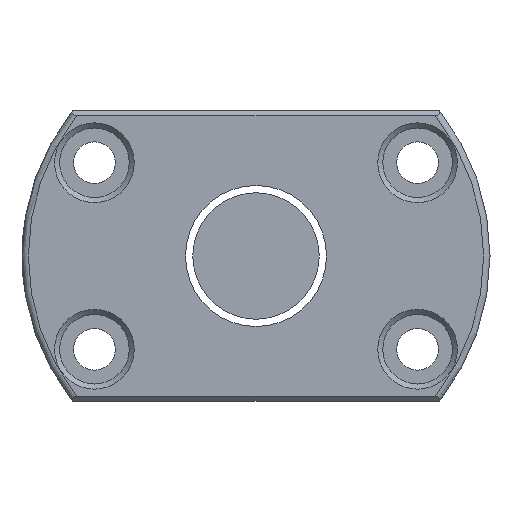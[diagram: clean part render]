
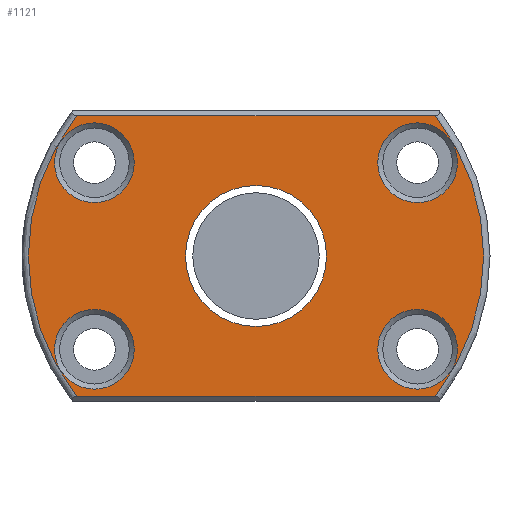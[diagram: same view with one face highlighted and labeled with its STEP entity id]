
A CAD part, left-side view. The second image highlights one B-rep face of the part: STEP entity #1121.
In plain terms, the highlighted planar face has unit normal (-1, 0, 0).
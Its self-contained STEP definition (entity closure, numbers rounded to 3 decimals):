
#4 = EDGE_CURVE ( 'NONE', #134, #134, #276, .T. ) ;
#45 = EDGE_CURVE ( 'NONE', #1109, #3187, #2652, .T. ) ;
#94 = VERTEX_POINT ( 'NONE', #1074 ) ;
#134 = VERTEX_POINT ( 'NONE', #381 ) ;
#143 = CARTESIAN_POINT ( 'NONE',  ( -57., 27.695, 22.2 ) ) ;
#156 = LINE ( 'NONE', #2659, #2923 ) ;
#276 = CIRCLE ( 'NONE', #433, 6.3 ) ;
#352 = EDGE_CURVE ( 'NONE', #616, #616, #3016, .T. ) ;
#360 = CARTESIAN_POINT ( 'NONE',  ( -57., -25.548, 14.75 ) ) ;
#381 = CARTESIAN_POINT ( 'NONE',  ( -57., 25.548, -8.45 ) ) ;
#433 = AXIS2_PLACEMENT_3D ( 'NONE', #2173, #1457, #456 ) ;
#456 = DIRECTION ( 'NONE',  ( 0., 0., 1. ) ) ;
#484 = AXIS2_PLACEMENT_3D ( 'NONE', #2717, #2699, #1175 ) ;
#521 = FACE_OUTER_BOUND ( 'NONE', #839, .T. ) ;
#583 = CARTESIAN_POINT ( 'NONE',  ( -57., -28.34, 22.2 ) ) ;
#616 = VERTEX_POINT ( 'NONE', #2891 ) ;
#646 = CARTESIAN_POINT ( 'NONE',  ( -57., 0., -11.15 ) ) ;
#657 = DIRECTION ( 'NONE',  ( -1., 0., 0. ) ) ;
#661 = AXIS2_PLACEMENT_3D ( 'NONE', #1080, #3051, #2774 ) ;
#772 = ORIENTED_EDGE ( 'NONE', *, *, #2549, .T. ) ;
#804 = AXIS2_PLACEMENT_3D ( 'NONE', #360, #2110, #2326 ) ;
#839 = EDGE_LOOP ( 'NONE', ( #2944, #2773, #2192, #2915 ) ) ;
#907 = EDGE_LOOP ( 'NONE', ( #1625 ) ) ;
#918 = EDGE_LOOP ( 'NONE', ( #2591 ) ) ;
#976 = CIRCLE ( 'NONE', #2972, 36. ) ;
#977 = DIRECTION ( 'NONE',  ( 0., 0., 1. ) ) ;
#984 = PLANE ( 'NONE',  #1656 ) ;
#1074 = CARTESIAN_POINT ( 'NONE',  ( -57., 28.34, -22.2 ) ) ;
#1080 = CARTESIAN_POINT ( 'NONE',  ( -57., 25.548, 14.75 ) ) ;
#1109 = VERTEX_POINT ( 'NONE', #1989 ) ;
#1121 = ADVANCED_FACE ( 'NONE', ( #521, #3231, #2535, #1730, #2731, #1520 ), #984, .T. ) ;
#1175 = DIRECTION ( 'NONE',  ( 0., 0., 1. ) ) ;
#1194 = LINE ( 'NONE', #143, #1417 ) ;
#1397 = EDGE_CURVE ( 'NONE', #1406, #1406, #2754, .T. ) ;
#1406 = VERTEX_POINT ( 'NONE', #646 ) ;
#1417 = VECTOR ( 'NONE', #1943, 1000. ) ;
#1435 = DIRECTION ( 'NONE',  ( 1., 0., 0. ) ) ;
#1457 = DIRECTION ( 'NONE',  ( 1., 0., 0. ) ) ;
#1458 = DIRECTION ( 'NONE',  ( 0., 0., 1. ) ) ;
#1476 = ORIENTED_EDGE ( 'NONE', *, *, #4, .T. ) ;
#1493 = CARTESIAN_POINT ( 'NONE',  ( -57., -25.548, -14.75 ) ) ;
#1500 = CARTESIAN_POINT ( 'NONE',  ( -57., 0., 0. ) ) ;
#1502 = DIRECTION ( 'NONE',  ( -1., 0., 0. ) ) ;
#1520 = FACE_BOUND ( 'NONE', #907, .T. ) ;
#1625 = ORIENTED_EDGE ( 'NONE', *, *, #1397, .T. ) ;
#1656 = AXIS2_PLACEMENT_3D ( 'NONE', #1747, #1502, #3009 ) ;
#1730 = FACE_BOUND ( 'NONE', #918, .T. ) ;
#1747 = CARTESIAN_POINT ( 'NONE',  ( -57., 37., 0. ) ) ;
#1753 = ORIENTED_EDGE ( 'NONE', *, *, #352, .T. ) ;
#1825 = EDGE_LOOP ( 'NONE', ( #1476 ) ) ;
#1881 = EDGE_LOOP ( 'NONE', ( #1753 ) ) ;
#1943 = DIRECTION ( 'NONE',  ( 0., 1., 0. ) ) ;
#1989 = CARTESIAN_POINT ( 'NONE',  ( -57., -28.34, -22.2 ) ) ;
#2101 = VERTEX_POINT ( 'NONE', #2612 ) ;
#2110 = DIRECTION ( 'NONE',  ( 1., 0., 0. ) ) ;
#2114 = EDGE_CURVE ( 'NONE', #2608, #94, #976, .T. ) ;
#2145 = EDGE_LOOP ( 'NONE', ( #772 ) ) ;
#2168 = EDGE_CURVE ( 'NONE', #3187, #2608, #1194, .T. ) ;
#2173 = CARTESIAN_POINT ( 'NONE',  ( -57., 25.548, -14.75 ) ) ;
#2192 = ORIENTED_EDGE ( 'NONE', *, *, #2114, .T. ) ;
#2290 = EDGE_CURVE ( 'NONE', #94, #1109, #156, .T. ) ;
#2326 = DIRECTION ( 'NONE',  ( 0., 0., 1. ) ) ;
#2424 = DIRECTION ( 'NONE',  ( 0., -1., 0. ) ) ;
#2439 = CARTESIAN_POINT ( 'NONE',  ( -57., 0., 0. ) ) ;
#2472 = VERTEX_POINT ( 'NONE', #2722 ) ;
#2492 = AXIS2_PLACEMENT_3D ( 'NONE', #1500, #2500, #2925 ) ;
#2500 = DIRECTION ( 'NONE',  ( 1., 0., 0. ) ) ;
#2535 = FACE_BOUND ( 'NONE', #1881, .T. ) ;
#2549 = EDGE_CURVE ( 'NONE', #2101, #2101, #2718, .T. ) ;
#2591 = ORIENTED_EDGE ( 'NONE', *, *, #2991, .T. ) ;
#2608 = VERTEX_POINT ( 'NONE', #3240 ) ;
#2612 = CARTESIAN_POINT ( 'NONE',  ( -57., -25.548, -8.45 ) ) ;
#2652 = CIRCLE ( 'NONE', #484, 36. ) ;
#2659 = CARTESIAN_POINT ( 'NONE',  ( -57., -27.695, -22.2 ) ) ;
#2699 = DIRECTION ( 'NONE',  ( -1., 0., 0. ) ) ;
#2717 = CARTESIAN_POINT ( 'NONE',  ( -57., 0., 0. ) ) ;
#2718 = CIRCLE ( 'NONE', #3131, 6.3 ) ;
#2722 = CARTESIAN_POINT ( 'NONE',  ( -57., 25.548, 21.05 ) ) ;
#2731 = FACE_BOUND ( 'NONE', #1825, .T. ) ;
#2754 = CIRCLE ( 'NONE', #2492, 11.15 ) ;
#2773 = ORIENTED_EDGE ( 'NONE', *, *, #2168, .T. ) ;
#2774 = DIRECTION ( 'NONE',  ( 0., 0., 1. ) ) ;
#2891 = CARTESIAN_POINT ( 'NONE',  ( -57., -25.548, 21.05 ) ) ;
#2915 = ORIENTED_EDGE ( 'NONE', *, *, #2290, .T. ) ;
#2923 = VECTOR ( 'NONE', #2424, 1000. ) ;
#2925 = DIRECTION ( 'NONE',  ( 0., 0., -1. ) ) ;
#2944 = ORIENTED_EDGE ( 'NONE', *, *, #45, .T. ) ;
#2972 = AXIS2_PLACEMENT_3D ( 'NONE', #2439, #657, #1458 ) ;
#2978 = CIRCLE ( 'NONE', #661, 6.3 ) ;
#2991 = EDGE_CURVE ( 'NONE', #2472, #2472, #2978, .T. ) ;
#3009 = DIRECTION ( 'NONE',  ( 0., 0., 1. ) ) ;
#3016 = CIRCLE ( 'NONE', #804, 6.3 ) ;
#3051 = DIRECTION ( 'NONE',  ( 1., 0., 0. ) ) ;
#3131 = AXIS2_PLACEMENT_3D ( 'NONE', #1493, #1435, #977 ) ;
#3187 = VERTEX_POINT ( 'NONE', #583 ) ;
#3231 = FACE_BOUND ( 'NONE', #2145, .T. ) ;
#3240 = CARTESIAN_POINT ( 'NONE',  ( -57., 28.34, 22.2 ) ) ;
